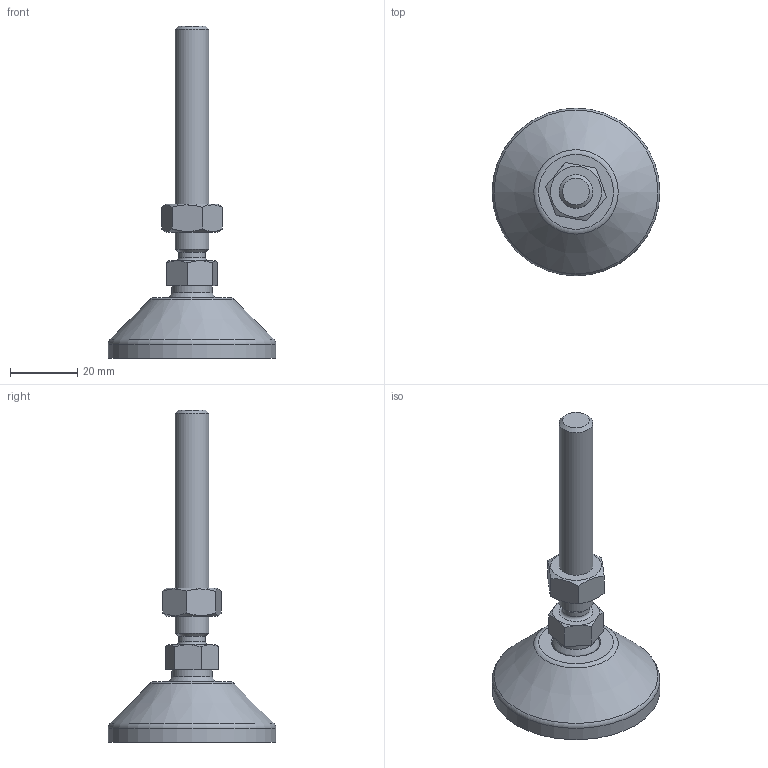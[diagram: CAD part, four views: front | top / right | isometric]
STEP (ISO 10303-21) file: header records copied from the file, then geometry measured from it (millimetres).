
FILE_DESCRIPTION(('STEP AP203'), '1');
FILE_NAME('栖闉罻', '', ('UNSPECIFIED'), ('UNSPECIFIED'), 'C3D Converter', 'C3D Toolkit', '');
FILE_SCHEMA(('CONFIG_CONTROL_DESIGN'));
Length unit declared in the file: millimetre
Products named in the file (4): A00015.1050; A00020.110070
Assembly tree (3 placements, depth 3):
  (unnamed)
    A00015.1050
    A00020.110070
      (unnamed)
Bounding box: 50 x 50 x 99 mm (x, y, z)
Volume: 25240.9 mm3; surface area: 12121.4 mm2
Topology: 3 solids, 3 shells, 182 faces, 487 edges, 323 vertices
Faces by surface type: plane 86, cylinder 50, torus 30, cone 14, sphere 2
Full cylindrical faces by diameter (mm): 4 x8, 8 x1, 8.376 x1, 10 x1, 12 x1, 14.3 x1, 15 x2, 15.5 x1, 39 x1, 50 x1
Entity records: 9349 total; most frequent: CARTESIAN_POINT 3256, DIRECTION 934, ORIENTED_EDGE 904, EDGE_CURVE 452, AXIS2_PLACEMENT_3D 386, VERTEX_POINT 322, EDGE_LOOP 230, CIRCLE 200
